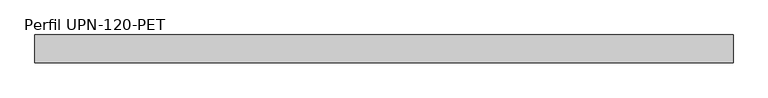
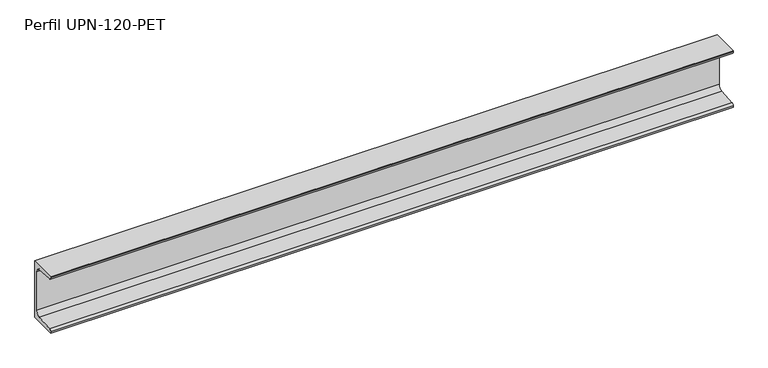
"""IFC4 building model written with IfcOpenShell, lengths in millimetres: beam geometry, ARES-I-AC-UPN-Perfil acero-PET : Perfil UPN-120-PET."""

from ifc_helpers import new_model, si_unit, point, frame, frame_2d, origin, place, context, project, spatial, polyline, circle_curve, trimmed, segment, composite_curve, outline, extrude, source, transform, mapped, element, save


def perfil_upn_120_pet_e11cd0c3(model_context):
    return source(origin(), model_context, "Body", "SweptSolid", [
        extrude(outline(composite_curve([segment(polyline([(16.0, 60.0), (16.0, -60.0), (-39.0, -60.0), (-39.0, -57.354377)]), True, "CONTINUOUS"), segment(trimmed(circle_curve(frame_2d((-34.5, -57.354377)), 4.5), [point((-39.0, -57.354377))], [point((-34.8588535, -52.8687083))], False, "CARTESIAN"), True, "CONTINUOUS"), segment(polyline([(-34.8588535, -52.8687083), (0.717707, -50.0225834)]), True, "CONTINUOUS"), segment(trimmed(circle_curve(frame_2d((0.0, -41.0512459)), 9.0), [point((0.717707, -50.0225834))], [point((9.0, -41.0512459))], True, "CARTESIAN"), True, "CONTINUOUS"), segment(polyline([(9.0, -41.0512459), (9.0, 41.0512459)]), True, "CONTINUOUS"), segment(trimmed(circle_curve(frame_2d((0.0, 41.0512459)), 9.0), [point((9.0, 41.0512459))], [point((0.717707, 50.0225834))], True, "CARTESIAN"), True, "CONTINUOUS"), segment(polyline([(0.717707, 50.0225834), (-34.8588535, 52.8687083)]), True, "CONTINUOUS"), segment(trimmed(circle_curve(frame_2d((-34.5, 57.354377)), 4.5), [point((-34.8588535, 52.8687083))], [point((-39.0, 57.354377))], False, "CARTESIAN"), True, "CONTINUOUS"), segment(polyline([(-39.0, 57.354377), (-39.0, 60.0), (16.0, 60.0)]), True, "CONTINUOUS")], self_intersect=False)), frame((-685.5, 0.0, 0.0), z_axis=(1.0, 0.0, 0.0), x_axis=(0.0, 1.0, 0.0)), (0.0, 0.0, 1.0), 1371.0),
    ])


if __name__ == "__main__":
    model = new_model("IFC4")
    model_context = context("Model", 3, world=origin())
    ifc_project = project(units=[si_unit("LENGTHUNIT", "METRE", prefix="MILLI")], contexts=[model_context])
    site = spatial("IfcSite", under=ifc_project)
    building = spatial("IfcBuilding", under=site)
    placement = place(None, origin())
    perfil_upn_120_pet_shape = perfil_upn_120_pet_e11cd0c3(model_context)
    element("IfcBeam", 1, ObjectType="ARES-I-AC-UPN-Perfil acero-PET : Perfil UPN-120-PET", at=placement, inside=building, context=model_context, shape_type="MappedRepresentation", body=[
        mapped(perfil_upn_120_pet_shape, transform((0.0, 0.0, 0.0), x_axis=(1.0, 0.0, 0.0), y_axis=(0.0, 1.0, 0.0), z_axis=(0.0, 0.0, 1.0))),
    ])
    save(model, "model.ifc")
